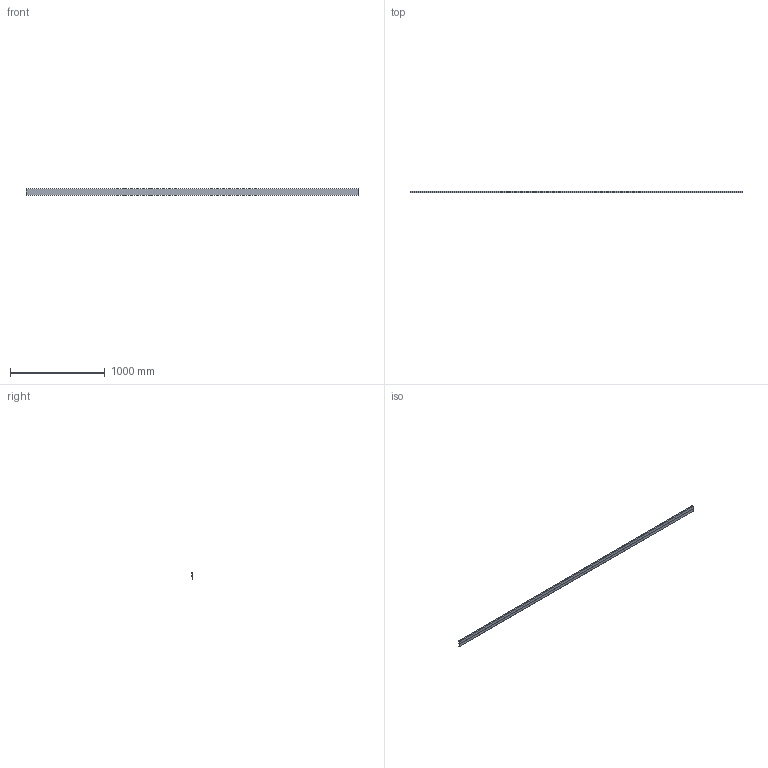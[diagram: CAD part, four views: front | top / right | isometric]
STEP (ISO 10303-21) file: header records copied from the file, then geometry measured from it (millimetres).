
FILE_DESCRIPTION(('STEP AP242'),'1');
FILE_NAME('OPO_65.082.07_volu_3d.stp','2026-01-30T20:52:49',(' '),(' '),'Spatial InterOp 3D',' ',' ');
FILE_SCHEMA(('AP242_MANAGED_MODEL_BASED_3D_ENGINEERING_MIM_LF {1 0 10303 442 1 1 4}'));
Length unit declared in the file: millimetre
Products named in the file (1): 1
Bounding box: 3500 x 15.5 x 65 mm (x, y, z)
Volume: 343000 mm3; surface area: 693196 mm2
Topology: 1 solids, 1 shells, 60 faces, 160 edges, 106 vertices
Faces by surface type: plane 40, cylinder 20
Entity records: 2364 total; most frequent: CARTESIAN_POINT 327, DIRECTION 322, ORIENTED_EDGE 320, EDGE_CURVE 160, LINE 120, VECTOR 120, VERTEX_POINT 106, AXIS2_PLACEMENT_3D 101
